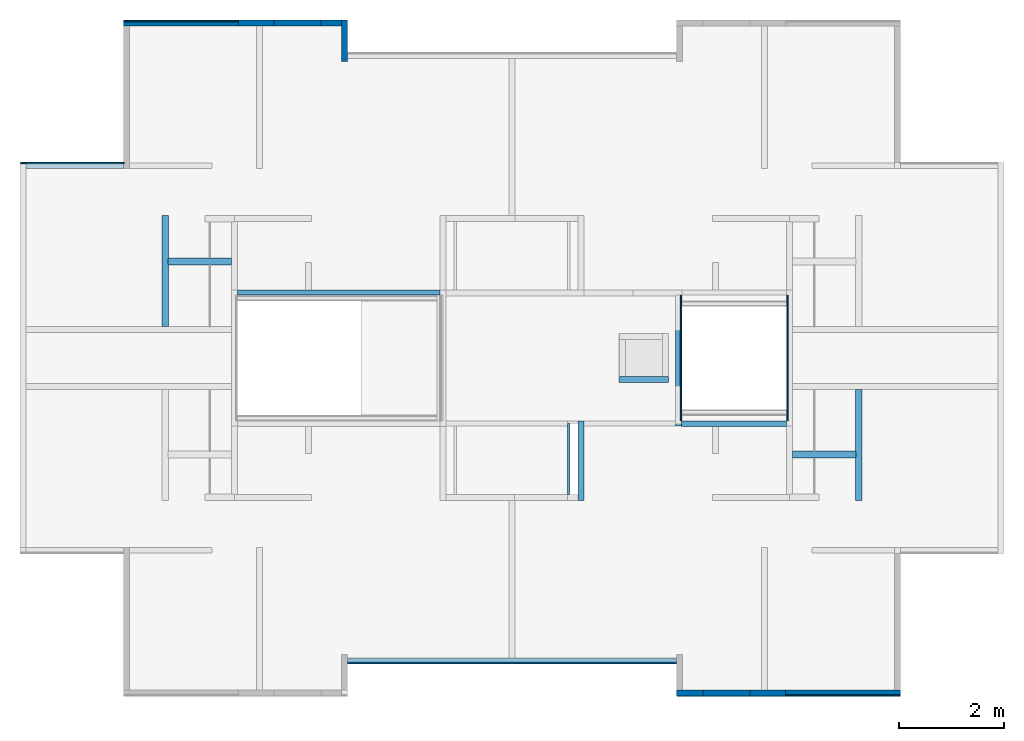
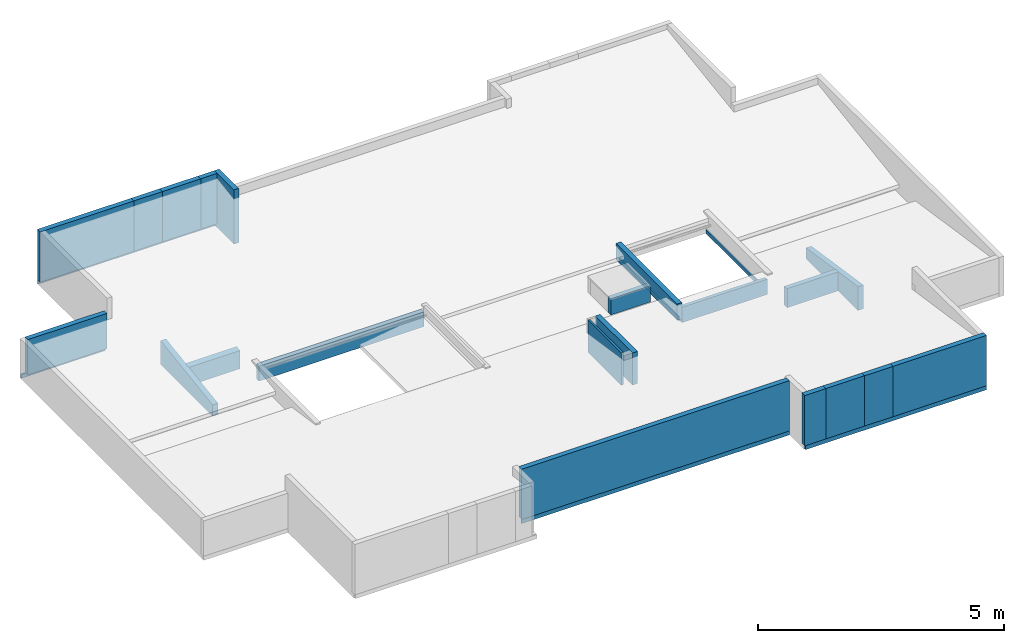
# One storey, part 2 of 9: 27 walls.
"""IFC4 building model written with IfcOpenShell, lengths in metres."""

from ifc_helpers import new_model, entity, si_unit, converted_unit, derived_unit, direction, frame, origin, place, context, subcontext, project, spatial, indexed_curve, outline, extrude, material, constituent, constituent_set, type_object, element, save


model = new_model("IFC4")

# Units and contexts
model_context = context("Model", 3, precision=1e-05, world=origin(), true_north=direction((6.123031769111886e-17, 1.0)))
body_context = subcontext(model_context, "Body", "Model", "MODEL_VIEW")
ifc_project = project(units=[si_unit("LENGTHUNIT", "METRE"), si_unit("AREAUNIT", "SQUARE_METRE"), si_unit("VOLUMEUNIT", "CUBIC_METRE"), converted_unit("PLANEANGLEUNIT", "DEGREE", entity("IfcRatioMeasure", 0.017453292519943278), si_unit("PLANEANGLEUNIT", "RADIAN"), dimensions=[0, 0, 0, 0, 0, 0, 0]), si_unit("MASSUNIT", "GRAM", prefix="KILO"), derived_unit("MASSDENSITYUNIT", [(si_unit("MASSUNIT", "GRAM", prefix="KILO"), 1), (si_unit("LENGTHUNIT", "METRE"), -3)]), derived_unit("IONCONCENTRATIONUNIT", [(si_unit("MASSUNIT", "GRAM", prefix="KILO"), 1), (si_unit("LENGTHUNIT", "METRE"), -3)]), derived_unit("MOMENTOFINERTIAUNIT", [(si_unit("LENGTHUNIT", "METRE"), 4)]), si_unit("TIMEUNIT", "SECOND"), si_unit("FREQUENCYUNIT", "HERTZ"), si_unit("THERMODYNAMICTEMPERATUREUNIT", "DEGREE_CELSIUS"), derived_unit("THERMALTRANSMITTANCEUNIT", [(si_unit("MASSUNIT", "GRAM", prefix="KILO"), 1), (si_unit("THERMODYNAMICTEMPERATUREUNIT", "KELVIN"), -1), (si_unit("TIMEUNIT", "SECOND"), -3)]), derived_unit("THERMALCONDUCTANCEUNIT", [(si_unit("MASSUNIT", "GRAM", prefix="KILO"), 1), (si_unit("THERMODYNAMICTEMPERATUREUNIT", "KELVIN"), -1), (si_unit("TIMEUNIT", "SECOND"), -3), (si_unit("LENGTHUNIT", "METRE"), 1)]), derived_unit("VOLUMETRICFLOWRATEUNIT", [(si_unit("LENGTHUNIT", "METRE"), 3), (si_unit("TIMEUNIT", "SECOND"), -1)]), derived_unit("MASSFLOWRATEUNIT", [(si_unit("MASSUNIT", "GRAM", prefix="KILO"), 1), (si_unit("TIMEUNIT", "SECOND"), -1)]), derived_unit("ROTATIONALFREQUENCYUNIT", [(si_unit("TIMEUNIT", "SECOND"), -1)]), si_unit("ELECTRICCURRENTUNIT", "AMPERE"), si_unit("ELECTRICVOLTAGEUNIT", "VOLT"), si_unit("POWERUNIT", "WATT"), si_unit("FORCEUNIT", "NEWTON", prefix="KILO"), si_unit("ILLUMINANCEUNIT", "LUX"), si_unit("LUMINOUSFLUXUNIT", "LUMEN"), si_unit("LUMINOUSINTENSITYUNIT", "CANDELA"), derived_unit("USERDEFINED", [(si_unit("MASSUNIT", "GRAM", prefix="KILO"), -1), (si_unit("LENGTHUNIT", "METRE"), -2), (si_unit("TIMEUNIT", "SECOND"), 3), (si_unit("LUMINOUSFLUXUNIT", "LUMEN"), 1)]), derived_unit("USERDEFINED", [(si_unit("MASSUNIT", "GRAM", prefix="KILO"), 1), (si_unit("TIMEUNIT", "SECOND"), -3), (si_unit("LENGTHUNIT", "METRE"), 3), (si_unit("ELECTRICCURRENTUNIT", "AMPERE"), -2)]), derived_unit("SOUNDPOWERUNIT", [(si_unit("MASSUNIT", "GRAM", prefix="KILO"), 1), (si_unit("TIMEUNIT", "SECOND"), -3), (si_unit("LENGTHUNIT", "METRE"), 2)]), derived_unit("SOUNDPRESSUREUNIT", [(si_unit("MASSUNIT", "GRAM", prefix="KILO"), 1), (si_unit("LENGTHUNIT", "METRE"), -1), (si_unit("TIMEUNIT", "SECOND"), -2)]), derived_unit("LINEARVELOCITYUNIT", [(si_unit("LENGTHUNIT", "METRE"), 1), (si_unit("TIMEUNIT", "SECOND"), -1)]), si_unit("PRESSUREUNIT", "PASCAL"), derived_unit("USERDEFINED", [(si_unit("MASSUNIT", "GRAM", prefix="KILO"), 1), (si_unit("LENGTHUNIT", "METRE"), -2), (si_unit("TIMEUNIT", "SECOND"), -2)]), derived_unit("LINEARFORCEUNIT", [(si_unit("MASSUNIT", "GRAM", prefix="KILO"), 1), (si_unit("TIMEUNIT", "SECOND"), -2)]), derived_unit("PLANARFORCEUNIT", [(si_unit("MASSUNIT", "GRAM", prefix="KILO"), 1), (si_unit("LENGTHUNIT", "METRE"), -1), (si_unit("TIMEUNIT", "SECOND"), -2)]), derived_unit("SPECIFICHEATCAPACITYUNIT", [(si_unit("THERMODYNAMICTEMPERATUREUNIT", "KELVIN"), -1), (si_unit("LENGTHUNIT", "METRE"), 2), (si_unit("TIMEUNIT", "SECOND"), -2)]), derived_unit("HEATINGVALUEUNIT", [(si_unit("LENGTHUNIT", "METRE"), 2), (si_unit("TIMEUNIT", "SECOND"), -2)]), derived_unit("VAPORPERMEABILITYUNIT", [(si_unit("LENGTHUNIT", "METRE"), -1), (si_unit("TIMEUNIT", "SECOND"), 1)]), derived_unit("DYNAMICVISCOSITYUNIT", [(si_unit("MASSUNIT", "GRAM", prefix="KILO"), 1), (si_unit("TIMEUNIT", "SECOND"), -1), (si_unit("LENGTHUNIT", "METRE"), -1)]), derived_unit("THERMALEXPANSIONCOEFFICIENTUNIT", [(si_unit("THERMODYNAMICTEMPERATUREUNIT", "KELVIN"), -1)]), derived_unit("MODULUSOFELASTICITYUNIT", [(si_unit("MASSUNIT", "GRAM", prefix="KILO"), 1), (si_unit("LENGTHUNIT", "METRE"), -1), (si_unit("TIMEUNIT", "SECOND"), -2)]), derived_unit("ISOTHERMALMOISTURECAPACITYUNIT", [(si_unit("LENGTHUNIT", "METRE"), 3), (si_unit("MASSUNIT", "GRAM", prefix="KILO"), -1)]), derived_unit("MOISTUREDIFFUSIVITYUNIT", [(si_unit("TIMEUNIT", "SECOND"), -1), (si_unit("LENGTHUNIT", "METRE"), 2)])], contexts=[model_context])

# Site, building, storey
site_placement = place(None, origin())
site = spatial("IfcSite", under=ifc_project, at=site_placement, Name="Default", CompositionType="ELEMENT")
building_placement = place(site_placement, origin())
building = spatial("IfcBuilding", under=site, at=building_placement, CompositionType="ELEMENT")
storey_placement = place(building_placement, frame((0.0, 0.0, 14.10000000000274)))
storey = spatial("IfcBuildingStorey", under=building, at=storey_placement, Name="Nivel 7", CompositionType="ELEMENT", Elevation=14.10000000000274)

# Walls
ifc_material_1 = material(Name="Ladrillo claro (Aire)", Category="Materials")
wall_type_1 = type_object("IfcWallType", Name="Basic Wall:B2010 - 0.115m - Muro exterior en mampostería - Ladrillo", PredefinedType="STANDARD")
wall_1_placement = place(storey_placement, frame((14.533300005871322, -12.812500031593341, 0.0), z_axis=(0.0, 0.0, 1.0), x_axis=(-1.0, 0.0, 0.0)))
element("IfcWall", 1, at=wall_1_placement, inside=storey, type_object=wall_type_1, material=ifc_material_1, Name="Basic Wall:B2010 - 0.115m - Muro exterior en mampostería - Ladrillo", ObjectType="Basic Wall:B2010 - 0.115m - Muro exterior en mampostería - Ladrillo", PredefinedType="NOTDEFINED", context=body_context, shape_type="SweptSolid", body=[
    extrude(outline(indexed_curve([(0.6707999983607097, 0.05749999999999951), (2.209540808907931e-16, 0.057499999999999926), (-2.209540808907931e-16, -0.057499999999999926), (0.6707999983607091, -0.057500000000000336), (0.6707999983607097, 0.05749999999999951)], self_intersect=False)), origin(), (0.0, 0.0, 1.0), 1.2468000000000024),
])
wall_2_placement = place(storey_placement, frame((12.962500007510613, -12.812500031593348, 0.0), z_axis=(0.0, 0.0, 1.0), x_axis=(-1.0, 0.0, 0.0)))
element("IfcWall", 2, at=wall_2_placement, inside=storey, type_object=wall_type_1, material=ifc_material_1, Name="Basic Wall:B2010 - 0.115m - Muro exterior en mampostería - Ladrillo", ObjectType="Basic Wall:B2010 - 0.115m - Muro exterior en mampostería - Ladrillo", PredefinedType="NOTDEFINED", context=body_context, shape_type="SweptSolid", body=[
    extrude(outline(indexed_curve([(0.5000000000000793, 0.05749999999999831), (1.8551913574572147e-16, 0.057499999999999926), (-1.8551913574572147e-16, -0.057499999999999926), (0.5000000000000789, -0.057500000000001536), (0.5000000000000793, 0.05749999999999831)], self_intersect=False)), origin(), (0.0, 0.0, 1.0), 1.2468000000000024),
])
wall_3_placement = place(storey_placement, frame((6.1249999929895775, 0.01999997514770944, -0.09999999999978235), z_axis=(0.0, 0.0, 1.0), x_axis=(0.0, -1.0, 0.0)))
element("IfcWall", 3, at=wall_3_placement, inside=storey, type_object=wall_type_1, material=ifc_material_1, Name="Basic Wall:B2010 - 0.115m - Muro exterior en mampostería - Ladrillo", ObjectType="Basic Wall:B2010 - 0.115m - Muro exterior en mampostería - Ladrillo", PredefinedType="NOTDEFINED", context=body_context, shape_type="SweptSolid", body=[
    extrude(outline(indexed_curve([(0.7899180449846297, 0.0575000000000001), (1.5009930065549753e-18, 0.057499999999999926), (-1.5009930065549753e-18, -0.057499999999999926), (0.7899180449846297, -0.057499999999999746), (0.7899180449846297, 0.0575000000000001)], self_intersect=False)), origin(), (0.0, 0.0, 1.0), 1.3467999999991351),
])
wall_4_placement = place(storey_placement, frame((4.111699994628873, -0.03750002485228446, 0.0)))
element("IfcWall", 4, at=wall_4_placement, inside=storey, type_object=wall_type_1, material=ifc_material_1, Name="Basic Wall:B2010 - 0.115m - Muro exterior en mampostería - Ladrillo", ObjectType="Basic Wall:B2010 - 0.115m - Muro exterior en mampostería - Ladrillo", PredefinedType="NOTDEFINED", context=body_context, shape_type="SweptSolid", body=[
    extrude(outline(indexed_curve([(0.6707999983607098, 0.0575), (-1.4988053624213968e-16, 0.0575), (1.4988053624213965e-16, -0.05749999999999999), (0.67079999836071, -0.05749999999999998), (0.6707999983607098, 0.0575)], self_intersect=False)), origin(), (0.0, 0.0, 1.0), 1.2468000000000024),
])
wall_5_placement = place(storey_placement, frame((5.682499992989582, -0.03750002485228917, 0.0)))
element("IfcWall", 5, at=wall_5_placement, inside=storey, type_object=wall_type_1, material=ifc_material_1, Name="Basic Wall:B2010 - 0.115m - Muro exterior en mampostería - Ladrillo", ObjectType="Basic Wall:B2010 - 0.115m - Muro exterior en mampostería - Ladrillo", PredefinedType="NOTDEFINED", context=body_context, shape_type="SweptSolid", body=[
    extrude(outline(indexed_curve([(0.3849999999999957, 0.0575), (-1.8531548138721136e-16, 0.0575), (1.8531548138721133e-16, -0.05749999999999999), (0.38499999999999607, -0.0575), (0.3849999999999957, 0.0575)], self_intersect=False)), origin(), (0.0, 0.0, 1.0), 1.2468000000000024),
])
ifc_material_2 = material(Name="LADRILLO CLARO", Category="Materials")
wall_type_2 = type_object("IfcWallType", Name="Basic Wall:B2010 - 0.115m - ME mampostería no estructural - Ladrillo", PredefinedType="STANDARD")
wall_6_placement = place(storey_placement, frame((6.182499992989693, -12.197500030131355, 0.0)))
element("IfcWall", 6, at=wall_6_placement, inside=storey, type_object=wall_type_2, material=ifc_material_2, Name="Basic Wall:B2010 - 0.115m - ME mampostería no estructural - Ladrillo", ObjectType="Basic Wall:B2010 - 0.115m - ME mampostería no estructural - Ladrillo", PredefinedType="NOTDEFINED", context=body_context, shape_type="SweptSolid", body=[
    extrude(outline(indexed_curve([(6.280000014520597, 0.05749999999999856), (-1.8580555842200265e-16, 0.057499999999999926), (1.8580555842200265e-16, -0.057499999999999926), (6.280000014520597, -0.057500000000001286), (6.280000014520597, 0.05749999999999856)], self_intersect=False)), origin(), (0.0, 0.0, 1.0), 1.2468000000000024),
])
wall_7_placement = place(storey_placement, frame((16.727500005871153, -12.812500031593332, 0.0), z_axis=(0.0, 0.0, 1.0), x_axis=(-1.0, 0.0, 0.0)))
element("IfcWall", 7, at=wall_7_placement, inside=storey, type_object=wall_type_2, material=ifc_material_2, Name="Basic Wall:B2010 - 0.115m - ME mampostería no estructural - Ladrillo", ObjectType="Basic Wall:B2010 - 0.115m - ME mampostería no estructural - Ladrillo", PredefinedType="NOTDEFINED", context=body_context, shape_type="SweptSolid", body=[
    extrude(outline(indexed_curve([(2.194199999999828, 0.0575), (1.1151582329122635e-16, 0.057499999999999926), (-1.1151582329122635e-16, -0.057499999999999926), (2.194199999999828, -0.05749999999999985), (2.194199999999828, 0.0575)], self_intersect=False)), origin(), (0.0, 0.0, 1.0), 1.2468000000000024),
])
wall_8_placement = place(storey_placement, frame((13.862500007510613, -12.812500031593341, 0.0), z_axis=(0.0, 0.0, 1.0), x_axis=(-1.0, 0.0, 0.0)))
element("IfcWall", 8, at=wall_8_placement, inside=storey, type_object=wall_type_2, material=ifc_material_2, Name="Basic Wall:B2010 - 0.115m - ME mampostería no estructural - Ladrillo", ObjectType="Basic Wall:B2010 - 0.115m - ME mampostería no estructural - Ladrillo", PredefinedType="NOTDEFINED", context=body_context, shape_type="SweptSolid", body=[
    extrude(outline(indexed_curve([(0.8999999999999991, 0.057500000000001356), (1.8551913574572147e-16, 0.057499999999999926), (-1.8551913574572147e-16, -0.057499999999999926), (0.8999999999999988, -0.0574999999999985), (0.8999999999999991, 0.057500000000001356)], self_intersect=False)), origin(), (0.0, 0.0, 1.0), 1.2468000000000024),
])
wall_9_placement = place(storey_placement, frame((0.057500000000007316, -2.7525000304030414, 0.0)))
element("IfcWall", 9, at=wall_9_placement, inside=storey, type_object=wall_type_2, material=ifc_material_2, Name="Basic Wall:B2010 - 0.115m - ME mampostería no estructural - Ladrillo", ObjectType="Basic Wall:B2010 - 0.115m - ME mampostería no estructural - Ladrillo", PredefinedType="NOTDEFINED", context=body_context, shape_type="SweptSolid", body=[
    extrude(outline(indexed_curve([(1.8599999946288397, 0.057499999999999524), (-2.549185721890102e-18, 0.057499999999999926), (2.549185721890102e-18, -0.057499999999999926), (1.8599999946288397, -0.05750000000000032), (1.8599999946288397, 0.057499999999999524)], self_intersect=False)), origin(), (0.0, 0.0, 1.0), 0.8758000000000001),
])
wall_10_placement = place(storey_placement, frame((1.917499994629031, -0.03750002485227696, 0.0)))
element("IfcWall", 10, at=wall_10_placement, inside=storey, type_object=wall_type_2, material=ifc_material_2, Name="Basic Wall:B2010 - 0.115m - ME mampostería no estructural - Ladrillo", ObjectType="Basic Wall:B2010 - 0.115m - ME mampostería no estructural - Ladrillo", PredefinedType="NOTDEFINED", context=body_context, shape_type="SweptSolid", body=[
    extrude(outline(indexed_curve([(2.1941999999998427, 0.05750000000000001), (1.139798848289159e-17, 0.0575), (-1.139798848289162e-17, -0.05749999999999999), (2.1941999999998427, -0.05749999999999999), (2.1941999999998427, 0.05750000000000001)], self_intersect=False)), origin(), (0.0, 0.0, 1.0), 1.2468000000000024),
])
wall_11_placement = place(storey_placement, frame((4.782499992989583, -0.03750002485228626, 0.0)))
element("IfcWall", 11, at=wall_11_placement, inside=storey, type_object=wall_type_2, material=ifc_material_2, Name="Basic Wall:B2010 - 0.115m - ME mampostería no estructural - Ladrillo", ObjectType="Basic Wall:B2010 - 0.115m - ME mampostería no estructural - Ladrillo", PredefinedType="NOTDEFINED", context=body_context, shape_type="SweptSolid", body=[
    extrude(outline(indexed_curve([(0.8999999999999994, 0.0575), (3.56118083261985e-16, 0.0575), (-3.56118083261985e-16, -0.05749999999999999), (0.8999999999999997, -0.05749999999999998), (0.8999999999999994, 0.0575)], self_intersect=False)), origin(), (0.0, 0.0, 1.0), 1.2468000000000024),
])
wall_12_placement = place(storey_placement, frame((11.37000000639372, -6.832500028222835, 0.0)))
element("IfcWall", 12, at=wall_12_placement, inside=storey, type_object=wall_type_2, material=ifc_material_2, Name="Basic Wall:B2010 - 0.115m - ME mampostería no estructural - Ladrillo", ObjectType="Basic Wall:B2010 - 0.115m - ME mampostería no estructural - Ladrillo", PredefinedType="NOTDEFINED", context=body_context, shape_type="SweptSolid", body=[
    extrude(outline(indexed_curve([(0.9350000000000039, 0.057500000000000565), (-1.7298670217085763e-16, 0.057499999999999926), (1.7298670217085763e-16, -0.057499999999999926), (0.9350000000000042, -0.05749999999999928), (0.9350000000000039, 0.057500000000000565)], self_intersect=False)), origin(), (0.0, 0.0, 1.0), 0.3999999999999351),
])
wall_type_3 = type_object("IfcWallType", Name="Basic Wall:B2010 - 0.115m - Muro interior en mampostería - Ladrillo", PredefinedType="STANDARD")
wall_13_placement = place(storey_placement, frame((12.50000000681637, -5.240000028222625, 0.0), z_axis=(0.0, 0.0, 1.0), x_axis=(0.0, -1.0, 0.0)))
element("IfcWall", 13, at=wall_13_placement, inside=storey, type_object=wall_type_3, material=ifc_material_1, Name="Basic Wall:B2010 - 0.115m - Muro interior en mampostería - Ladrillo", ObjectType="Basic Wall:B2010 - 0.115m - Muro interior en mampostería - Ladrillo", PredefinedType="NOTDEFINED", context=body_context, shape_type="SweptSolid", body=[
    extrude(outline(indexed_curve([(2.4850000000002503, 0.057499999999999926), (0.0, 0.057499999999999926), (0.0, -0.057499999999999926), (2.4850000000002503, -0.057499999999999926), (2.4850000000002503, 0.057499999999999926)], self_intersect=False)), origin(), (0.0, 0.0, 1.0), 0.4000000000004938),
])
wall_14_placement = place(storey_placement, frame((10.639999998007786, -7.625000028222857, -0.10000000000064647), z_axis=(0.0, 0.0, 1.0), x_axis=(0.0, -1.0, 0.0)))
element("IfcWall", 14, at=wall_14_placement, inside=storey, type_object=wall_type_3, material=ifc_material_1, Name="Basic Wall:B2010 - 0.115m - Muro interior en mampostería - Ladrillo", ObjectType="Basic Wall:B2010 - 0.115m - Muro interior en mampostería - Ladrillo", PredefinedType="NOTDEFINED", context=body_context, shape_type="SweptSolid", body=[
    extrude(outline(indexed_curve([(1.515000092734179, 0.057499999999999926), (-8.219782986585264e-17, 0.057499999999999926), (8.219782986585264e-17, -0.057499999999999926), (1.515000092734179, -0.057499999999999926), (1.515000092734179, 0.057499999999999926)], self_intersect=False)), origin(), (0.0, 0.0, 1.0), 0.8),
])
ifc_material_3 = material(Name="Pañete", Category="Materials")
ifc_constituent_1 = constituent(ifc_material_3, Name="Pañete", Category="Materials")
ifc_constituent_2 = constituent(ifc_material_1, Name="Ladrillo claro (Aire)", Category="Materials")
ifc_constituent_set_1 = constituent_set(constituents=[ifc_constituent_1, ifc_constituent_2], Name="Basic Wall:B2010 - 0.115m - Muro interior en mampostería - Ladrillo + Pañete")
wall_type_4 = type_object("IfcWallType", Name="Basic Wall:B2010 - 0.115m - Muro interior en mampostería - Ladrillo + Pañete", PredefinedType="STANDARD", material=ifc_constituent_set_1)
wall_15_placement = place(storey_placement, frame((2.715001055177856, -3.70999993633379, -0.10000000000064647), z_axis=(0.0, 0.0, 1.0), x_axis=(0.0, -1.0, 0.0)))
element("IfcWall", 15, at=wall_15_placement, inside=storey, type_object=wall_type_4, material=ifc_constituent_set_1, Name="Basic Wall:B2010 - 0.115m - Muro interior en mampostería - Ladrillo + Pañete", ObjectType="Basic Wall:B2010 - 0.115m - Muro interior en mampostería - Ladrillo + Pañete", PredefinedType="NOTDEFINED", context=body_context, shape_type="SweptSolid", body=[
    extrude(outline(indexed_curve([(-0.19226428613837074, -0.9064286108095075), (-0.09226428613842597, -0.9064286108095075), (0.08393571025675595, -0.9064286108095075), (0.4011857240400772, -0.9064286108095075), (0.08393571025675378, 1.208571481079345), (-0.09226428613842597, 1.208571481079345), (-0.19226428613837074, 1.208571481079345), (-0.19226428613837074, -0.9064286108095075)], self_intersect=False)), frame((0.9064286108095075, 0.05249999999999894, 0.19226428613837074), z_axis=(0.0, 1.0, 0.0), x_axis=(0.0, 0.0, 1.0)), (0.0, 0.0, 1.0), 0.009999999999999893),
    extrude(outline(indexed_curve([(-0.19226428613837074, -0.9064286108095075), (-0.09226428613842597, -0.9064286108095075), (0.08393571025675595, -0.9064286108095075), (0.4011857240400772, -0.9064286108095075), (0.08393571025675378, 1.208571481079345), (-0.09226428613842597, 1.208571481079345), (-0.19226428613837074, 1.208571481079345), (-0.19226428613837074, -0.9064286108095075)], self_intersect=False)), frame((0.9064286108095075, -0.0625000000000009, 0.19226428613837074), z_axis=(0.0, 1.0, 0.0), x_axis=(0.0, 0.0, 1.0)), (0.0, 0.0, 1.0), 0.11499999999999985),
])
wall_16_placement = place(storey_placement, frame((15.929998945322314, -9.140000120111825, -0.10000000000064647), z_axis=(0.0, 0.0, 1.0), x_axis=(0.0, 1.0, 0.0)))
element("IfcWall", 16, at=wall_16_placement, inside=storey, type_object=wall_type_4, material=ifc_constituent_set_1, Name="Basic Wall:B2010 - 0.115m - Muro interior en mampostería - Ladrillo + Pañete", ObjectType="Basic Wall:B2010 - 0.115m - Muro interior en mampostería - Ladrillo + Pañete", PredefinedType="NOTDEFINED", context=body_context, shape_type="SweptSolid", body=[
    extrude(outline(indexed_curve([(-0.20645454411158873, -1.2209091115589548), (-0.1064545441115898, -1.2209091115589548), (0.06974545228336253, -1.2209091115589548), (0.2459954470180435, -0.04590914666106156), (0.2662454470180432, 0.08909085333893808), (0.38699546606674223, 0.894090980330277), (0.06974545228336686, 0.894090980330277), (-0.1064545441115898, 0.894090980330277), (-0.20645454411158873, 0.894090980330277), (-0.20645454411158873, 0.08909085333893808), (-0.20645454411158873, -0.04590914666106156), (-0.20645454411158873, -1.2209091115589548)], self_intersect=False)), frame((0.8940909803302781, 0.06250000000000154, 0.20645454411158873), z_axis=(0.0, -1.0, 0.0), x_axis=(0.0, 0.0, 1.0)), (0.0, 0.0, 1.0), 0.009999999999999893),
    extrude(outline(indexed_curve([(-0.1922642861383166, -1.2085714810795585), (-0.09226428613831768, -1.2085714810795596), (0.08393571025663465, -1.2085714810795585), (0.4011857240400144, 0.9064286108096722), (0.08393571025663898, 0.9064286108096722), (-0.09226428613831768, 0.9064286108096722), (-0.1922642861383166, 0.9064286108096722), (-0.1922642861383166, -1.2085714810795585)], self_intersect=False)), frame((0.9064286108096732, 0.05250000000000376, 0.1922642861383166), z_axis=(0.0, -1.0, 0.0), x_axis=(0.0, 0.0, 1.0)), (0.0, 0.0, 1.0), 0.11499999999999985),
])
ifc_constituent_3 = constituent(ifc_material_3, Name="Pañete", Category="Materials")
ifc_constituent_4 = constituent(ifc_material_2, Name="LADRILLO CLARO", Category="Materials")
ifc_constituent_5 = constituent(ifc_material_3, Name="Pañete (2)", Category="Materials")
ifc_constituent_set_2 = constituent_set(constituents=[ifc_constituent_3, ifc_constituent_4, ifc_constituent_5], Name="Basic Wall:B2010 - 0.115m - MI  mampostería no estructural - Pañete + Ladrillo + Pañete")
wall_type_5 = type_object("IfcWallType", Name="Basic Wall:B2010 - 0.115m - MI  mampostería no estructural - Pañete + Ladrillo + Pañete", PredefinedType="STANDARD", material=ifc_constituent_set_2)
wall_17_placement = place(storey_placement, frame((3.972499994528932, -4.582500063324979, -0.10000000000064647), z_axis=(0.0, 0.0, 1.0), x_axis=(-1.0, 0.0, 0.0)))
element("IfcWall", 17, at=wall_17_placement, inside=storey, type_object=wall_type_5, material=ifc_constituent_set_2, Name="Basic Wall:B2010 - 0.115m - MI  mampostería no estructural - Pañete + Ladrillo + Pañete", ObjectType="Basic Wall:B2010 - 0.115m - MI  mampostería no estructural - Pañete + Ladrillo + Pañete", PredefinedType="NOTDEFINED", context=body_context, shape_type="SweptSolid", body=[
    extrude(outline(indexed_curve([(-0.04006057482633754, -0.2333642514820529), (-0.02994870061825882, -0.2333642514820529), (0.03994931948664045, 0.23262254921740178), (0.030059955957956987, 0.23410595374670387), (-0.04006057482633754, -0.2333642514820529)], self_intersect=False)), frame((1.1949989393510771, -0.06250000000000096, 0.23597499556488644), z_axis=(-1.0, 0.0, 0.0), x_axis=(0.0, 0.9889363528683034, -0.14834045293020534)), (0.0, 0.0, 1.0), 1.194998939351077),
    extrude(outline(indexed_curve([(-0.004999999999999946, -0.22659999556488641), (0.004999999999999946, -0.22659999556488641), (0.004999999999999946, 0.22734999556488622), (-0.004999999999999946, 0.22584999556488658), (-0.004999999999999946, -0.22659999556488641)], self_intersect=False)), frame((1.1949989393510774, 0.06249999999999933, 0.22659999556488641), z_axis=(-1.0, 0.0, 0.0), x_axis=(0.0, -1.0, 0.0)), (0.0, 0.0, 1.0), 1.194998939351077),
    extrude(outline(indexed_curve([(-0.23128749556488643, -0.057499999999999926), (0.2399124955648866, -0.057499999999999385), (0.22266249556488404, 0.057499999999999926), (-0.23128749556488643, 0.057499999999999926), (-0.23128749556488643, -0.057499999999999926)], self_intersect=False)), frame((1.2049989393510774, 0.0, 0.23128749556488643), z_axis=(-1.0, 0.0, 0.0), x_axis=(0.0, 0.0, 1.0)), (0.0, 0.0, 1.0), 1.2049989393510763),
])
ifc_material_4 = material(Name="0 muro divisorio", Category="Materials")
wall_type_6 = type_object("IfcWallType", Name="Basic Wall:B2010 - 0.05m - MI No estructural- Concreto", PredefinedType="STANDARD")
wall_18_placement = place(storey_placement, frame((10.407500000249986, -7.675000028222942, -0.10000000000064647), z_axis=(0.0, 0.0, 1.0), x_axis=(0.0, -1.0, 0.0)))
element("IfcWall", 18, at=wall_18_placement, inside=storey, type_object=wall_type_6, material=ifc_material_4, Name="Basic Wall:B2010 - 0.05m - MI No estructural- Concreto", ObjectType="Basic Wall:B2010 - 0.05m - MI No estructural- Concreto", PredefinedType="NOTDEFINED", context=body_context, shape_type="SweptSolid", body=[
    extrude(outline(indexed_curve([(1.3499999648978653, 0.025000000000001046), (1.1600444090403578e-16, 0.025000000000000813), (-1.1600444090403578e-16, -0.025000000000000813), (1.3499999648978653, -0.02500000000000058), (1.3499999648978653, 0.025000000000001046)], self_intersect=False)), origin(), (0.0, 0.0, 1.0), 0.8),
])
ifc_material_5 = material(Name="Graniplast", Category="Materials")
ifc_constituent_6 = constituent(ifc_material_5, Name="Graniplast", Category="Materials")
ifc_material_6 = material(Name="Concreto (Aire)", Category="Materials")
ifc_constituent_7 = constituent(ifc_material_6, Name="Concreto (Aire)", Category="Materials")
ifc_constituent_set_3 = constituent_set(constituents=[ifc_constituent_6, ifc_constituent_7], Name="Basic Wall:B2010 - 0.10m - MI Concreto- Concreto+Graniplast")
wall_type_7 = type_object("IfcWallType", Name="Basic Wall:B2010 - 0.10m - MI Concreto- Concreto+Graniplast", PredefinedType="STANDARD", material=ifc_constituent_set_3)
wall_19_placement = place(storey_placement, frame((4.08749999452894, -5.1750000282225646, -0.1000000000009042)))
element("IfcWall", 19, at=wall_19_placement, inside=storey, type_object=wall_type_7, material=ifc_constituent_set_3, Name="Basic Wall:B2010 - 0.10m - MI Concreto- Concreto+Graniplast", ObjectType="Basic Wall:B2010 - 0.10m - MI Concreto- Concreto+Graniplast", PredefinedType="NOTDEFINED", context=body_context, shape_type="SweptSolid", body=[
    extrude(outline(indexed_curve([(-0.15539999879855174, -0.0004999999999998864), (-0.0553999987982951, -0.0004999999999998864), (0.2108749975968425, -0.0004999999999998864), (0.21072499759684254, 0.0004999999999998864), (-0.0553999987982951, 0.0004999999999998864), (-0.15539999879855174, 0.0004999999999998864), (-0.15539999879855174, -0.0004999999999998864)], self_intersect=False)), frame((0.0, -0.04999999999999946, 0.15539999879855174), z_axis=(1.0, 0.0, 0.0), x_axis=(0.0, 0.0, 1.0)), (0.0, 0.0, 1.0), 3.8600000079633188),
    extrude(outline(indexed_curve([(-0.04999999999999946, -0.15792499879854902), (0.050000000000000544, -0.15792499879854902), (0.050000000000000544, -0.05792499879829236), (0.050000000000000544, 0.22334999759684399), (-0.04999999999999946, 0.20834999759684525), (-0.04999999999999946, -0.05792499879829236), (-0.04999999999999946, -0.15792499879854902)], self_intersect=False)), frame((0.0, 0.0004999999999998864, 0.15792499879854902), z_axis=(1.0, 0.0, 0.0), x_axis=(0.0, 1.0, 0.0)), (0.0, 0.0, 1.0), 3.8600000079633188),
])
wall_20_placement = place(storey_placement, frame((12.557500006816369, -7.675000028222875, -0.10000000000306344)))
element("IfcWall", 20, at=wall_20_placement, inside=storey, type_object=wall_type_7, material=ifc_constituent_set_3, Name="Basic Wall:B2010 - 0.10m - MI Concreto- Concreto+Graniplast", ObjectType="Basic Wall:B2010 - 0.10m - MI Concreto- Concreto+Graniplast", PredefinedType="NOTDEFINED", context=body_context, shape_type="SweptSolid", body=[
    extrude(outline(indexed_curve([(-0.15539999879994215, -0.0004999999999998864), (-0.055399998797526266, -0.0005000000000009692), (0.21072499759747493, -0.0005000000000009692), (0.21087499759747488, 0.0004999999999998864), (-0.055399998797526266, 0.0004999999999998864), (-0.15539999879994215, 0.0004999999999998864), (-0.15539999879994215, -0.0004999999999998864)], self_intersect=False)), frame((0.0, 0.04999999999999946, 0.15539999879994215), z_axis=(1.0, 0.0, 0.0), x_axis=(0.0, 0.0, 1.0)), (0.0, 0.0, 1.0), 1.9999999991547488),
    extrude(outline(indexed_curve([(-0.057924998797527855, -0.04999999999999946), (0.2083499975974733, -0.04999999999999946), (0.22334999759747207, 0.04999999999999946), (-0.057924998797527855, 0.04999999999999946), (-0.15792499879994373, 0.050000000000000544), (-0.15792499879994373, -0.04999999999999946), (-0.057924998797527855, -0.04999999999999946)], self_intersect=False)), frame((0.0, -0.0004999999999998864, 0.15792499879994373), z_axis=(1.0, 0.0, 0.0), x_axis=(0.0, 0.0, 1.0)), (0.0, 0.0, 1.0), 1.9999999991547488),
])
ifc_constituent_8 = constituent(ifc_material_3, Name="Pañete", Category="Materials")
ifc_constituent_9 = constituent(ifc_material_2, Name="LADRILLO CLARO", Category="Materials")
ifc_constituent_10 = constituent(ifc_material_3, Name="Pañete (2)", Category="Materials")
ifc_constituent_set_4 = constituent_set(constituents=[ifc_constituent_8, ifc_constituent_9, ifc_constituent_10], Name="Basic Wall:B2010 - 0.115m - Muro interior en mampostería - Pañete + Ladrillo + Pañete")
wall_type_8 = type_object("IfcWallType", Name="Basic Wall:B2010 - 0.115m - Muro interior en mampostería - Pañete + Ladrillo + Pañete", PredefinedType="STANDARD", material=ifc_constituent_set_4)
wall_21_placement = place(storey_placement, frame((14.672500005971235, -8.26749999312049, -0.10000000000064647)))
element("IfcWall", 21, at=wall_21_placement, inside=storey, type_object=wall_type_8, material=ifc_constituent_set_4, Name="Basic Wall:B2010 - 0.115m - Muro interior en mampostería - Pañete + Ladrillo + Pañete", ObjectType="Basic Wall:B2010 - 0.115m - Muro interior en mampostería - Pañete + Ladrillo + Pañete", PredefinedType="NOTDEFINED", context=body_context, shape_type="SweptSolid", body=[
    extrude(outline(indexed_curve([(-0.004999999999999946, -0.23597499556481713), (0.004999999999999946, -0.23597499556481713), (0.004999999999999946, 0.23522499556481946), (-0.004999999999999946, 0.23672499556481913), (-0.004999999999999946, -0.23597499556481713)], self_intersect=False)), frame((0.0, -0.06249999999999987, 0.23597499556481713), z_axis=(1.0, 0.0, 0.0), x_axis=(0.0, 1.0, 0.0)), (0.0, 0.0, 1.0), 1.1949989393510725),
    extrude(outline(indexed_curve([(0.028558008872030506, -0.22409297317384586), (0.03866988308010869, -0.22409297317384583), (-0.02866926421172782, 0.22483467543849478), (-0.03855862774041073, 0.22335127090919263), (0.028558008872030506, -0.22409297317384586)], self_intersect=False)), frame((0.0, 0.06249999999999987, 0.2265999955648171), z_axis=(1.0, 0.0, 0.0), x_axis=(0.0, -0.9889363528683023, 0.14834045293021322)), (0.0, 0.0, 1.0), 1.1949989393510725),
    extrude(outline(indexed_curve([(-0.23128749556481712, -0.057499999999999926), (0.22266249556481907, -0.057499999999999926), (0.2399124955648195, 0.057499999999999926), (-0.23128749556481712, 0.057499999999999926), (-0.23128749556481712, -0.057499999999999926)], self_intersect=False)), frame((0.0, 0.0, 0.23128749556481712), z_axis=(1.0, 0.0, 0.0), x_axis=(0.0, 0.0, 1.0)), (0.0, 0.0, 1.0), 1.2049989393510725),
])
wall_type_9 = type_object("IfcWallType", Name="Basic Wall:B2010 - 0.03m - ME enchape  no estructural - Ladrillo", PredefinedType="STANDARD")
wall_22_placement = place(storey_placement, frame((6.182499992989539, -12.240000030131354, -0.10000000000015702)))
element("IfcWall", 22, at=wall_22_placement, inside=storey, type_object=wall_type_9, material=ifc_material_2, Name="Basic Wall:B2010 - 0.03m - ME enchape  no estructural - Ladrillo", ObjectType="Basic Wall:B2010 - 0.03m - ME enchape  no estructural - Ladrillo", PredefinedType="NOTDEFINED", context=body_context, shape_type="SweptSolid", body=[
    extrude(outline(indexed_curve([(6.280000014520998, 0.015000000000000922), (-4.655638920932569e-17, 0.015000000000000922), (4.655638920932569e-17, -0.015000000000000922), (6.280000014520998, -0.015000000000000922), (6.280000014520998, 0.015000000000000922)], self_intersect=False)), origin(), (0.0, 0.0, 1.0), 0.09999999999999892),
])
wall_23_placement = place(storey_placement, frame((12.47750000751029, -12.855000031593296, -0.10000000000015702)))
element("IfcWall", 23, at=wall_23_placement, inside=storey, type_object=wall_type_9, material=ifc_material_2, Name="Basic Wall:B2010 - 0.03m - ME enchape  no estructural - Ladrillo", ObjectType="Basic Wall:B2010 - 0.03m - ME enchape  no estructural - Ladrillo", PredefinedType="NOTDEFINED", context=body_context, shape_type="SweptSolid", body=[
    extrude(outline(indexed_curve([(4.249999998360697, 0.015000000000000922), (-4.586260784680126e-17, 0.015000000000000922), (4.586260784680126e-17, -0.015000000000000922), (4.249999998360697, -0.015000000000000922), (4.249999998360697, 0.015000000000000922)], self_intersect=False)), origin(), (0.0, 0.0, 1.0), 0.09999999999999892),
])
wall_24_placement = place(storey_placement, frame((6.067499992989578, 0.00499997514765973, -0.10000000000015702), z_axis=(0.0, 0.0, 1.0), x_axis=(-1.0, 0.0, 0.0)))
element("IfcWall", 24, at=wall_24_placement, inside=storey, type_object=wall_type_9, material=ifc_material_2, Name="Basic Wall:B2010 - 0.03m - ME enchape  no estructural - Ladrillo", ObjectType="Basic Wall:B2010 - 0.03m - ME enchape  no estructural - Ladrillo", PredefinedType="NOTDEFINED", context=body_context, shape_type="SweptSolid", body=[
    extrude(outline(indexed_curve([(4.1499999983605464, 0.015), (-4.8468380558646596e-17, 0.015), (4.8468380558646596e-17, -0.015), (4.1499999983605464, -0.015), (4.1499999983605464, 0.015)], self_intersect=False)), origin(), (0.0, 0.0, 1.0), 0.09999999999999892),
])
wall_25_placement = place(storey_placement, frame((1.9324999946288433, -2.710000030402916, -0.10000000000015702), z_axis=(0.0, 0.0, 1.0), x_axis=(-1.0, 0.0, 0.0)))
element("IfcWall", 25, at=wall_25_placement, inside=storey, type_object=wall_type_9, material=ifc_material_2, Name="Basic Wall:B2010 - 0.03m - ME enchape  no estructural - Ladrillo", ObjectType="Basic Wall:B2010 - 0.03m - ME enchape  no estructural - Ladrillo", PredefinedType="NOTDEFINED", context=body_context, shape_type="SweptSolid", body=[
    extrude(outline(indexed_curve([(1.9749999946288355, 0.014999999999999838), (-4.9345844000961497e-17, 0.014999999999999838), (4.9345844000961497e-17, -0.014999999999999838), (1.9749999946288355, -0.014999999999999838), (1.9749999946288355, 0.014999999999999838)], self_intersect=False)), origin(), (0.0, 0.0, 1.0), 0.09999999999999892),
])
wall_26_placement = place(storey_placement, frame((12.542500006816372, -5.225500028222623, -0.10000000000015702), z_axis=(0.0, 0.0, 1.0), x_axis=(0.0, -1.0, 0.0)))
element("IfcWall", 26, at=wall_26_placement, inside=storey, type_object=wall_type_9, material=ifc_material_2, Name="Basic Wall:B2010 - 0.03m - ME enchape  no estructural - Ladrillo", ObjectType="Basic Wall:B2010 - 0.03m - ME enchape  no estructural - Ladrillo", PredefinedType="NOTDEFINED", context=body_context, shape_type="SweptSolid", body=[
    extrude(outline(indexed_curve([(2.3990000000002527, 0.015000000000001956), (-2.001191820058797e-17, 0.015000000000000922), (2.001191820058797e-17, -0.015000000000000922), (2.3990000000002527, -0.014999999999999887), (2.3990000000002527, 0.015000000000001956)], self_intersect=False)), origin(), (0.0, 0.0, 1.0), 0.09999999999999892),
])
wall_27_placement = place(storey_placement, frame((14.572500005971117, -5.225500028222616, -0.10000000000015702), z_axis=(0.0, 0.0, 1.0), x_axis=(0.0, -1.0, 0.0)))
element("IfcWall", 27, at=wall_27_placement, inside=storey, type_object=wall_type_9, material=ifc_material_2, Name="Basic Wall:B2010 - 0.03m - ME enchape  no estructural - Ladrillo", ObjectType="Basic Wall:B2010 - 0.03m - ME enchape  no estructural - Ladrillo", PredefinedType="NOTDEFINED", context=body_context, shape_type="SweptSolid", body=[
    extrude(outline(indexed_curve([(2.39900000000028, 0.015000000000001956), (-2.001191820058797e-17, 0.015000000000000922), (2.001191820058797e-17, -0.015000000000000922), (2.39900000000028, -0.014999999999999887), (2.39900000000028, 0.015000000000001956)], self_intersect=False)), origin(), (0.0, 0.0, 1.0), 0.09999999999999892),
])

save(model, "model.ifc")
